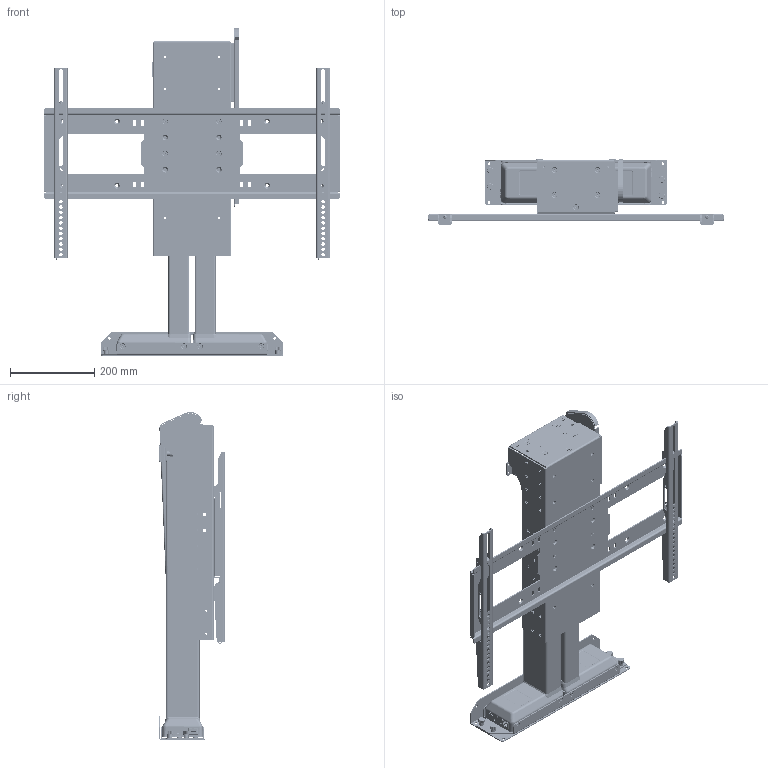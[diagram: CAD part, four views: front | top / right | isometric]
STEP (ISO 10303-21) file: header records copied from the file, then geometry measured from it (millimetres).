
FILE_DESCRIPTION(/* description */ ('STEP AP242','CAx-IF Rec.Pracs.---Representation and Presentation of Product Manufacturing Information (PMI)---4.0---2014-10-13','CAx-IF Rec.Pracs.---3D Tessellated Geometry---0.4---2014-09-14','2;1'),/* implementation_level */ '2;1');
FILE_NAME(/* name */ '654aa1adc3dc330f76ed936f',/* time_stamp */ '2023-11-07T20:44:32Z',/* author */ (''),/* organization */ (''),/* preprocessor_version */ 'ST-DEVELOPER v19.4',/* originating_system */ ' ',/* authorisation */ ' ');
FILE_SCHEMA (('AP242_MANAGED_MODEL_BASED_3D_ENGINEERING_MIM_LF { 1 0 10303 442 1 1 4 }'));
Products named in the file (38): DL-65 (HD); WDS8151-215; Hex socket countersunk head screw M6x1 x 12; OLD_ULS-NX-024 - ULS Hinged Top Guide; Socket button head screw M6x1 x 8; Socket button head screw M6x1 x 16; ULS-NX-032 - HD Quick Release LC Mount; Lift Column H <2>; L45 LC Motor Housing; L45 LC Inner Profile; L45 LC Middle Profile; L65 PS Adapter; ULS-NX-031 - HD QUICK RELEASE BASE MOUNT w/ PEMS <1>; ULS-NX-031 - HD QUICK RELEASE BASE MOUNT; PEM FHS-M6-12  ; ULS-NX-041 -- ULS HD HTG Adapter Plate; ULS-NX-030 - HD REAR SUPPORT w/ PEMs <1>; ULS-NX-030 - HD Rear Support; ULS-NX-029 - HD Column Clamp; Lift Column H <1>; SS Fixed Short - Rev B2 <1>; PEM CLS-M6-1; PEM Nut F-M4-2; PEM Nut CLSS-M5-1; PS Screen Support Fixed 01; SBP & VMB <1>; PZ Pan head screw M5x0.80 x 25; ULS-NX-118 - UL VMB WELDMENT <1>; 90107A012; PEM BSO-632-10  ZI; VMB Washer; ULS-NX-020 - UL SCREEN LOCK; Socket button head cap screw #6-32 x 0.188; ULS-NX-019 - UL LEVEL ADJUSTMENT PLATE; ULS-NX-018 - UL VERICAL MOUNTING BAR; ULS-NX-118 - UL VMB WELDMENT <2>; ULS-NX-017 - UL SCREEN BACK PLATE
Assembly tree (149 placements, depth 4):
  DL-65 (HD)
    WDS8151-215  x6
    Hex socket countersunk head screw M6x1 x 12  x17
    OLD_ULS-NX-024 - ULS Hinged Top Guide
    Socket button head screw M6x1 x 8  x4
    Hex socket countersunk head screw M6x1 x 12  x4
    Socket button head screw M6x1 x 16  x8
    ULS-NX-032 - HD Quick Release LC Mount
    Lift Column H <2>
      L45 LC Motor Housing
      L45 LC Inner Profile
      L45 LC Middle Profile
    L65 PS Adapter
    ULS-NX-031 - HD QUICK RELEASE BASE MOUNT w/ PEMS <1>
      ULS-NX-031 - HD QUICK RELEASE BASE MOUNT
      PEM FHS-M6-12    x4
    ULS-NX-041 -- ULS HD HTG Adapter Plate
    ULS-NX-030 - HD REAR SUPPORT w/ PEMs <1>
      PEM FHS-M6-12    x2
      ULS-NX-030 - HD Rear Support
    ULS-NX-029 - HD Column Clamp
    Lift Column H <1>
      L45 LC Inner Profile
      L45 LC Middle Profile
      L45 LC Motor Housing
    SS Fixed Short - Rev B2 <1>
      PEM CLS-M6-1  x42
      PEM Nut F-M4-2  x8
      PEM Nut CLSS-M5-1  x2
      PS Screen Support Fixed 01
      L65 PS Adapter
    SBP & VMB <1>
      PZ Pan head screw M5x0.80 x 25  x2
      ULS-NX-118 - UL VMB WELDMENT <1>
        90107A012  x2
        PEM BSO-632-10  ZI  x2
        VMB Washer  x4
        ULS-NX-020 - UL SCREEN LOCK
        Socket button head cap screw #6-32 x 0.188  x2
        ULS-NX-019 - UL LEVEL ADJUSTMENT PLATE
        ULS-NX-018 - UL VERICAL MOUNTING BAR
      ULS-NX-118 - UL VMB WELDMENT <2>
        90107A012  x2
        PEM BSO-632-10  ZI  x2
        ULS-NX-018 - UL VERICAL MOUNTING BAR
        Socket button head cap screw #6-32 x 0.188  x2
        ULS-NX-019 - UL LEVEL ADJUSTMENT PLATE
        VMB Washer  x4
        ULS-NX-020 - UL SCREEN LOCK
      ULS-NX-017 - UL SCREEN BACK PLATE
Bounding box: 698.5 x 155.15 x 776.51 mm (x, y, z)
Volume: 15920619.4 mm3; surface area: 2382786.2 mm2
Topology: 141 solids, 141 shells, 9277 faces, 24143 edges, 15526 vertices
Faces by surface type: plane 5573, cylinder 2384, cone 704, bspline 359, torus 215, sphere 42
Full cylindrical faces by diameter (mm): 2.642 x4, 3.505 x4, 4 x8, 4.6 x4, 4.917 x42, 5 x44, 5.026 x4, 5.08 x4, 5.277 x8, 5.3 x12, 5.385 x12, 5.41 x8, 5.6 x8, 5.944 x4, 5.994 x4, 6 x59, 6.35 x28, 6.4 x20, 6.6 x18, 6.655 x4, 7.112 x2, 7.37 x16, 8.128 x34, 8.64 x2, 8.73 x42, 8.738 x42, 9.5 x2, 9.525 x8, 11.18 x42, 11.34 x21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
Entity records: 86112 total; most frequent: CARTESIAN_POINT 16809, DIRECTION 13615, ORIENTED_EDGE 13048, EDGE_CURVE 6524, AXIS2_PLACEMENT_3D 4758, VERTEX_POINT 4341, LINE 4099, VECTOR 4099
